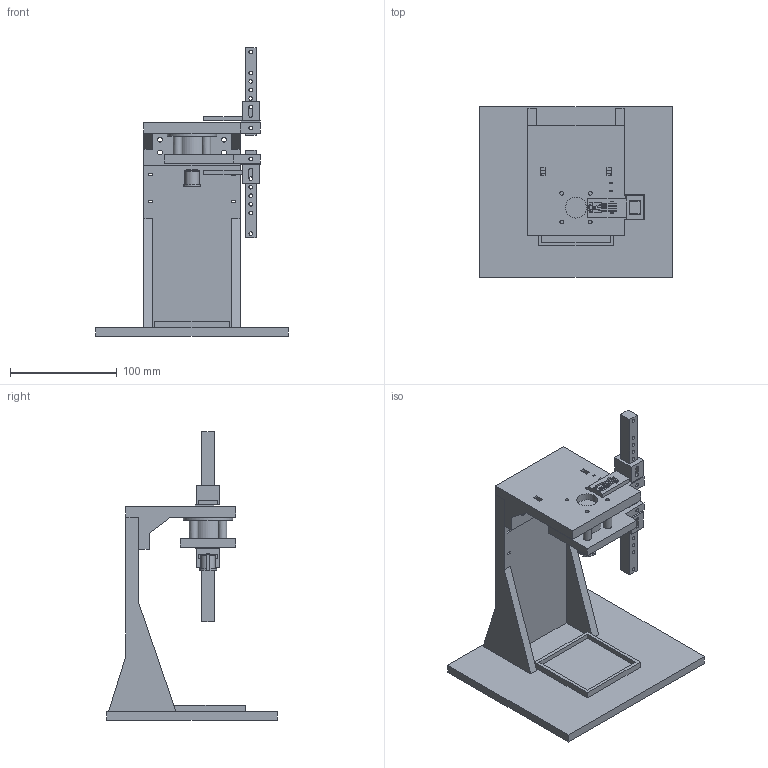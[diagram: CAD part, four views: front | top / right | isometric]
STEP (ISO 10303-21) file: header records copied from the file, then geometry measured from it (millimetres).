
FILE_DESCRIPTION(('Open CASCADE Model'),'2;1');
FILE_NAME('Open CASCADE Shape Model','2026-11-12T16:33:15',('Author'),( 'Open CASCADE'),'Open CASCADE STEP processor 7.9','Open CASCADE 7.9' ,'Unknown');
FILE_SCHEMA(('AUTOMOTIVE_DESIGN { 1 0 10303 214 1 1 1 1 }'));
Length unit declared in the file: millimetre
Products named in the file (20): testbox1_adjustable_hall; 01_frame_base_upright_tray; 02_cantilever_vented_head_upper_sensor; 03_four_DC1_stack_cassette_lower_LPG_seat; 04_D68_payload_carrier; 05_upper_indexed_rail; 06_lower_indexed_rail; 07_upper_LPG_sliding_carriage; 08_lower_LPG_sliding_carriage; REF_EM_nominal_25x20; REF_DC1_disk_1; REF_DC1_disk_2; REF_DC1_disk_3; REF_DC1_disk_4; REF_D68_N52_gap15; REF_DRV5056_lower_LPG_max_body; REF_DRV5056_upper_LPG_max_body; REF_lower_leads_formed; REF_upper_leads_formed; REF_nylon_retaining_loop_envelope
Assembly tree (19 placements, depth 2):
  testbox1_adjustable_hall
    01_frame_base_upright_tray
    02_cantilever_vented_head_upper_sensor
    03_four_DC1_stack_cassette_lower_LPG_seat
    04_D68_payload_carrier
    05_upper_indexed_rail
    06_lower_indexed_rail
    07_upper_LPG_sliding_carriage
    08_lower_LPG_sliding_carriage
    REF_EM_nominal_25x20
    REF_DC1_disk_1
    REF_DC1_disk_2
    REF_DC1_disk_3
    REF_DC1_disk_4
    REF_D68_N52_gap15
    REF_DRV5056_lower_LPG_max_body
    REF_DRV5056_upper_LPG_max_body
    REF_lower_leads_formed
    REF_upper_leads_formed
    REF_nylon_retaining_loop_envelope
Bounding box: 180 x 160 x 270 mm (x, y, z)
Volume: 670194 mm3; surface area: 186420.1 mm2
Topology: 23 solids, 23 shells, 518 faces, 1379 edges, 914 vertices
Faces by surface type: plane 451, cylinder 67
Full cylindrical faces by diameter (mm): 0.55 x6, 3.4 x26, 4.5 x8, 8 x4, 9.525 x1, 10 x1, 19.05 x4, 19.6 x2, 25 x1, 26 x1, 46 x1
Entity records: 34026 total; most frequent: CARTESIAN_POINT 6573, DIRECTION 4626, LINE 2963, VECTOR 2963, ORIENTED_EDGE 2758, PCURVE 2758, DEFINITIONAL_REPRESENTATION 2758, EDGE_CURVE 1379
